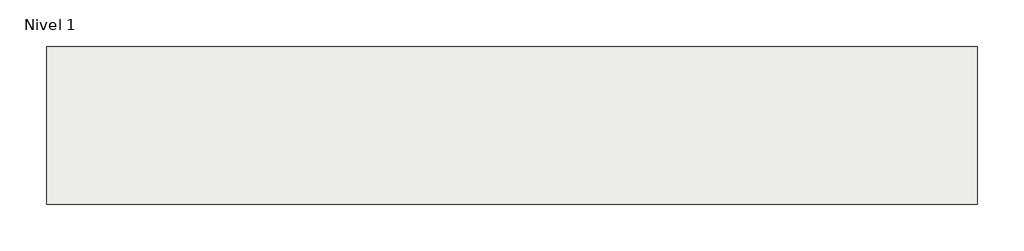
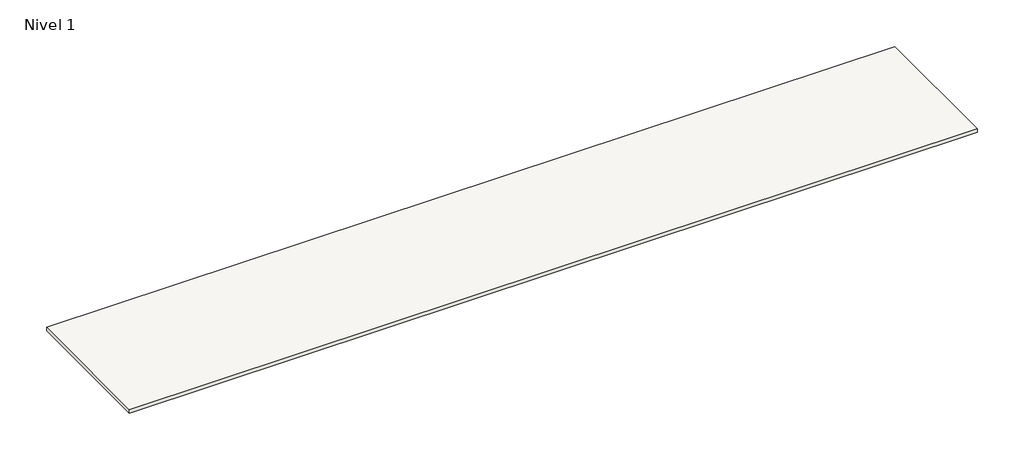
# One storey, incomplete: 1 slab.
"""IFC4 building model written with IfcOpenShell, lengths in millimetres."""

import ifcopenshell
import ifcopenshell.guid

model = None  # the IFC model being written
_history = None  # IfcOwnerHistory: only IFC2X3 demands one
_inside = {}  # id of a spatial element -> (the spatial element, [elements in it])
_under = {}  # id of a project, library or spatial element -> (it, [spatial elements below it])
_declared = {}  # id of a project -> (the project, [libraries it declares])
_typed = {}  # id of a type object -> (the type object, [elements of that type])
_made_of = {}  # id of a material, layer set ... -> (it, [elements and type objects made of it])


def new_model(schema):
    """Start an empty IFC model of exactly this schema.

    Asked for "IFC4X3", IfcOpenShell would pick the latest addendum, in which some entities
    have other attributes; the version numbers below select the first issue.
    IFC2X3 requires an IfcOwnerHistory on every rooted entity: one is made here for all.
    """
    global model, _history
    if schema == "IFC4X3":
        model = ifcopenshell.file(schema_version=(4, 3, 0, 0))
    else:
        model = ifcopenshell.file(schema=schema)
    _inside.clear()
    _under.clear()
    _declared.clear()
    _typed.clear()
    _made_of.clear()
    _history = None
    if model.schema == "IFC2X3":
        org = make("IfcOrganization", Name="unknown")
        user = make(
            "IfcPersonAndOrganization",
            ThePerson=make("IfcPerson", FamilyName="unknown"),
            TheOrganization=org,
        )
        app = make(
            "IfcApplication",
            ApplicationDeveloper=org,
            Version="unknown",
            ApplicationFullName="unknown",
            ApplicationIdentifier="unknown",
        )
        _history = make(
            "IfcOwnerHistory",
            OwningUser=user,
            OwningApplication=app,
            ChangeAction="ADDED",
            CreationDate=0,
        )
    return model


def make(cls, **values):
    """One entity of the class cls with the attributes given. An attribute that is None is left unset."""
    return model.create_entity(
        cls, **{name: value for name, value in values.items() if value is not None}
    )


def rooted(cls, **values):
    """An entity with a GlobalId (a new one), such as an element, a storey or a relation."""
    return make(cls, GlobalId=ifcopenshell.guid.new(), OwnerHistory=_history, **values)


def si_unit(unit_type, name, prefix=None):
    """IfcSIUnit, for example si_unit("LENGTHUNIT", "METRE", prefix="MILLI")."""
    return make("IfcSIUnit", UnitType=unit_type, Prefix=prefix, Name=name)


def assignment(units):
    """IfcUnitAssignment: the units of a project."""
    return None if units is None else make("IfcUnitAssignment", Units=units)


def point(xyz):
    """IfcCartesianPoint."""
    return None if xyz is None else make("IfcCartesianPoint", Coordinates=xyz)


def direction(xyz):
    """IfcDirection."""
    return None if xyz is None else make("IfcDirection", DirectionRatios=xyz)


def frame(location, z_axis=None, x_axis=None):
    """IfcAxis2Placement3D, a coordinate frame: its origin and axes. An axis left out is left unset."""
    return make(
        "IfcAxis2Placement3D",
        Location=point(location),
        Axis=direction(z_axis),
        RefDirection=direction(x_axis),
    )


def origin():
    """The frame at (0, 0, 0) with its axes left unset."""
    return frame((0.0, 0.0, 0.0))


def place(relative_to, where):
    """IfcLocalPlacement: puts the frame where relative to a parent placement (None: the world)."""
    return make(
        "IfcLocalPlacement", PlacementRelTo=relative_to, RelativePlacement=where
    )


def context(
    kind, dimensions, precision=None, world=None, true_north=None, identifier=None
):
    """IfcGeometricRepresentationContext, for example the 3D "Model" context."""
    return make(
        "IfcGeometricRepresentationContext",
        ContextIdentifier=identifier,
        ContextType=kind,
        CoordinateSpaceDimension=dimensions,
        Precision=precision,
        WorldCoordinateSystem=world,
        TrueNorth=true_north,
    )


def project(units=None, contexts=None):
    """IfcProject with its units and contexts."""
    return rooted(
        "IfcProject",
        Name="project",
        RepresentationContexts=contexts,
        UnitsInContext=assignment(units),
    )


def spatial(cls, under=None, at=None, **own):
    """A site, building, storey or space (cls), placed at a placement, below another one or the project."""
    s = rooted(cls, ObjectPlacement=at, **own)
    if under is not None:
        _under.setdefault(under.id(), (under, []))[1].append(s)
    return s


def polyline(points):
    """IfcPolyline through the points."""
    return make("IfcPolyline", Points=[point(p) for p in points])


def outline(outer, holes=None, kind="AREA"):
    """IfcArbitraryClosedProfileDef: a profile drawn as a closed curve; with holes, ...WithVoids."""
    if holes is None:
        return make("IfcArbitraryClosedProfileDef", ProfileType=kind, OuterCurve=outer)
    return make(
        "IfcArbitraryProfileDefWithVoids",
        ProfileType=kind,
        OuterCurve=outer,
        InnerCurves=holes,
    )


def extrude(swept, where, along, depth):
    """IfcExtrudedAreaSolid: the profile swept, set in the frame where, extruded along a direction by depth."""
    return make(
        "IfcExtrudedAreaSolid",
        SweptArea=swept,
        Position=where,
        ExtrudedDirection=direction(along),
        Depth=depth,
    )


def shape(context_of_items, identifier, shape_type, items):
    """IfcShapeRepresentation: the items that make up one representation, for example the "Body"."""
    return make(
        "IfcShapeRepresentation",
        ContextOfItems=context_of_items,
        RepresentationIdentifier=identifier,
        RepresentationType=shape_type,
        Items=items,
    )


def made_of(thing, what):
    """Note that an element or type object is made of a material, layer set ...; save() writes the relation."""
    if what is not None:
        _made_of.setdefault(what.id(), (what, []))[1].append(thing)
    return thing


def element(
    cls,
    number,
    at=None,
    inside=None,
    cuts=None,
    type_object=None,
    material=None,
    context=None,
    identifier="Body",
    shape_type=None,
    held_by="IfcProductDefinitionShape",
    body=None,
    shapes=None,
    **own,
):
    """One element of the class cls, such as IfcWall. Its Tag is "e" and its number.

    at: its placement. inside: the storey or other place that contains it. cuts: it is an
    opening in that element (IfcRelVoidsElement). A single representation is given by context,
    identifier, shape_type and body (its items); several are given by shapes. held_by: the class
    of the entity that holds the representations. save() writes the other relations.
    """
    e = rooted(cls, Tag="e%d" % number, ObjectPlacement=at, **own)
    if body is not None:
        shapes = [shape(context, identifier, shape_type, body)]
    if shapes is not None:
        e.Representation = make(held_by, Representations=shapes)
    if inside is not None:
        _inside.setdefault(inside.id(), (inside, []))[1].append(e)
    if cuts is not None:
        rooted(
            "IfcRelVoidsElement", RelatingBuildingElement=cuts, RelatedOpeningElement=e
        )
    if type_object is not None:
        _typed.setdefault(type_object.id(), (type_object, []))[1].append(e)
    return made_of(e, material)


def aggregate(whole, parts):
    """IfcRelAggregates: a whole, such as a stair, and the parts it consists of."""
    return rooted("IfcRelAggregates", RelatingObject=whole, RelatedObjects=parts)


def save(model, path):
    """Write the relations noted so far, then the file.

    IfcRelAggregates (storeys below a building ...), IfcRelContainedInSpatialStructure (elements
    in a storey), IfcRelDefinesByType, IfcRelAssociatesMaterial and IfcRelDeclares: one each for
    every whole, place, type object, material and project.
    """
    for whole, parts in _under.values():
        aggregate(whole, parts)
    for where, things in _inside.values():
        rooted(
            "IfcRelContainedInSpatialStructure",
            RelatedElements=things,
            RelatingStructure=where,
        )
    for kind, things in _typed.values():
        rooted("IfcRelDefinesByType", RelatedObjects=things, RelatingType=kind)
    for what, things in _made_of.values():
        rooted("IfcRelAssociatesMaterial", RelatedObjects=things, RelatingMaterial=what)
    for by, libraries in _declared.values():
        rooted("IfcRelDeclares", RelatingContext=by, RelatedDefinitions=libraries)
    model.write(path)


model = new_model("IFC4")

# Units and contexts
model_context = context("Model", 3, world=origin())
ifc_project = project(units=[si_unit("LENGTHUNIT", "METRE", prefix="MILLI")], contexts=[model_context])

# Site, building, storey
site = spatial("IfcSite", under=ifc_project)
building = spatial("IfcBuilding", under=site)
storey = spatial("IfcBuildingStorey", under=building, Name="Nivel 1", Elevation=0.0)

# Slab
placement = place(None, origin())
element("IfcSlab", 1, ObjectType="Por defecto - 30 cm", at=placement, inside=storey, context=model_context, shape_type="SweptSolid", body=[
    extrude(outline(polyline([(56031.8579118, 9079.2669701), (56031.8579118, -3120.7330299), (-15968.1420882, -3120.7330299), (-15968.1420882, 9079.2669701), (56031.8579118, 9079.2669701)])), frame((0.0, 0.0, -300.0), z_axis=(0.0, 0.0, 1.0), x_axis=(1.0, 0.0, 0.0)), (0.0, 0.0, 1.0), 300.0),
])

save(model, "model.ifc")
